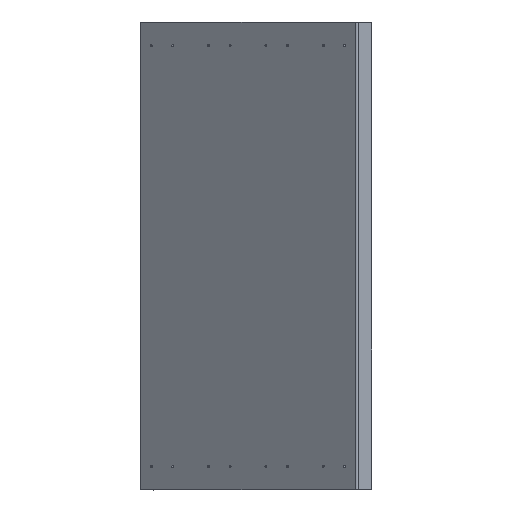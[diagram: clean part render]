
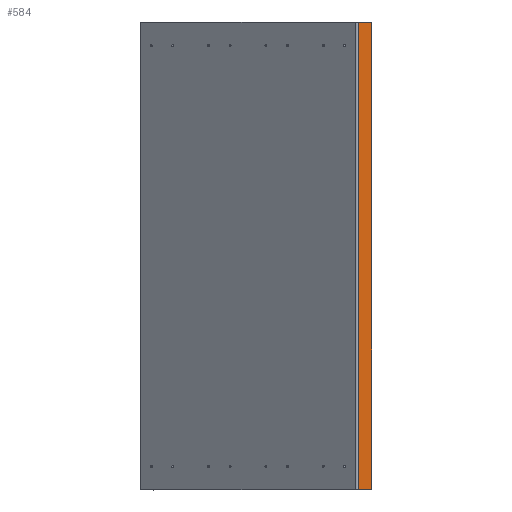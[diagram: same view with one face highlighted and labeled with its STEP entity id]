
A CAD part, top view. The second image highlights one B-rep face of the part: STEP entity #584.
In plain terms, the highlighted planar face has unit normal (0.766, 0, 0.643).
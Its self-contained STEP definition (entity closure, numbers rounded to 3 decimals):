
#434=CARTESIAN_POINT('',(187.654,4600.5,1158.865));
#435=VERTEX_POINT('',#434);
#442=CARTESIAN_POINT('',(159.371,4600.5,1192.571));
#443=VERTEX_POINT('',#442);
#444=CARTESIAN_POINT('',(159.371,4600.5,1192.571));
#445=DIRECTION('',(0.643,-0.,-0.766));
#446=VECTOR('',#445,44.);
#447=LINE('',#444,#446);
#448=EDGE_CURVE('',#443,#435,#447,.T.);
#536=CARTESIAN_POINT('',(160.978,4610.5,1190.656));
#537=DIRECTION('',(-0.766,0.,-0.643));
#538=DIRECTION('',(-0.,-1.,-0.));
#539=AXIS2_PLACEMENT_3D('',#536,#537,#538);
#540=PLANE('',#539);
#541=ORIENTED_EDGE('',*,*,#448,.T.);
#542=CARTESIAN_POINT('',(188.297,4601.5,1158.099));
#543=VERTEX_POINT('',#542);
#544=CARTESIAN_POINT('',(187.654,4601.5,1158.865));
#545=DIRECTION('',(0.766,-0.,0.643));
#546=DIRECTION('',(-0.643,0.,0.766));
#547=AXIS2_PLACEMENT_3D('',#544,#545,#546);
#548=CIRCLE('',#547,1.);
#549=EDGE_CURVE('',#435,#543,#548,.T.);
#550=ORIENTED_EDGE('',*,*,#549,.T.);
#551=CARTESIAN_POINT('',(188.297,5599.5,1158.099));
#552=VERTEX_POINT('',#551);
#553=CARTESIAN_POINT('',(188.297,5599.5,1158.099));
#554=DIRECTION('',(-0.,-1.,-0.));
#555=VECTOR('',#554,998.);
#556=LINE('',#553,#555);
#557=EDGE_CURVE('',#552,#543,#556,.T.);
#558=ORIENTED_EDGE('',*,*,#557,.F.);
#559=CARTESIAN_POINT('',(187.654,5600.5,1158.865));
#560=VERTEX_POINT('',#559);
#561=CARTESIAN_POINT('',(187.654,5599.5,1158.865));
#562=DIRECTION('',(0.766,-0.,0.643));
#563=DIRECTION('',(-0.643,0.,0.766));
#564=AXIS2_PLACEMENT_3D('',#561,#562,#563);
#565=CIRCLE('',#564,1.);
#566=EDGE_CURVE('',#552,#560,#565,.T.);
#567=ORIENTED_EDGE('',*,*,#566,.T.);
#568=CARTESIAN_POINT('',(159.371,5600.5,1192.571));
#569=VERTEX_POINT('',#568);
#570=CARTESIAN_POINT('',(159.371,5600.5,1192.571));
#571=DIRECTION('',(0.643,-0.,-0.766));
#572=VECTOR('',#571,44.);
#573=LINE('',#570,#572);
#574=EDGE_CURVE('',#569,#560,#573,.T.);
#575=ORIENTED_EDGE('',*,*,#574,.F.);
#576=CARTESIAN_POINT('',(159.371,5600.5,1192.571));
#577=DIRECTION('',(-0.,-1.,-0.));
#578=VECTOR('',#577,1000.);
#579=LINE('',#576,#578);
#580=EDGE_CURVE('',#569,#443,#579,.T.);
#581=ORIENTED_EDGE('',*,*,#580,.T.);
#582=EDGE_LOOP('',(#541,#550,#558,#567,#575,#581));
#583=FACE_BOUND('',#582,.T.);
#584=ADVANCED_FACE('',(#583),#540,.F.);
